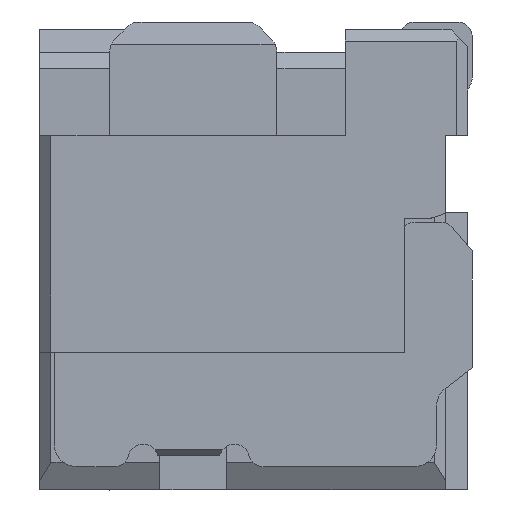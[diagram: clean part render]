
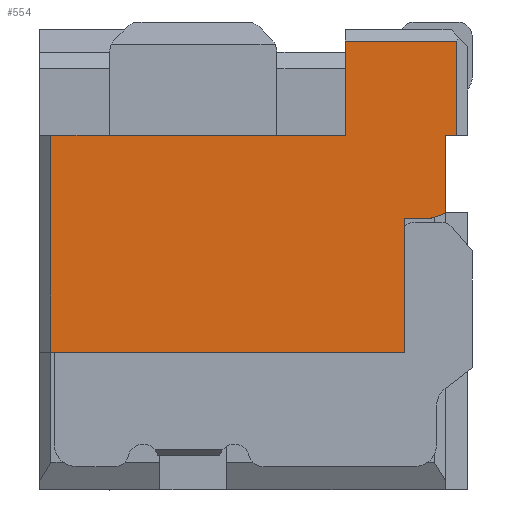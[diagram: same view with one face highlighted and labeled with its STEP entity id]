
A CAD part, front view. The second image highlights one B-rep face of the part: STEP entity #554.
In plain terms, the highlighted planar face has unit normal (0, -1, 0).
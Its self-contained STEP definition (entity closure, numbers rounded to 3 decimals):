
#554=ADVANCED_FACE('',(#1374),#981,.T.);
#981=PLANE('',#9589);
#1374=FACE_OUTER_BOUND('',#1828,.T.);
#1828=EDGE_LOOP('',(#3098,#3099,#3100,#3101,#3102,#3103,#3104,#3105,#3106,
#3107,#3108));
#3098=ORIENTED_EDGE('',*,*,#6314,.T.);
#3099=ORIENTED_EDGE('',*,*,#6339,.F.);
#3100=ORIENTED_EDGE('',*,*,#6340,.T.);
#3101=ORIENTED_EDGE('',*,*,#6341,.T.);
#3102=ORIENTED_EDGE('',*,*,#6342,.F.);
#3103=ORIENTED_EDGE('',*,*,#6343,.F.);
#3104=ORIENTED_EDGE('',*,*,#6344,.F.);
#3105=ORIENTED_EDGE('',*,*,#6345,.T.);
#3106=ORIENTED_EDGE('',*,*,#6346,.T.);
#3107=ORIENTED_EDGE('',*,*,#6337,.T.);
#3108=ORIENTED_EDGE('',*,*,#6256,.F.);
#5260=VERTEX_POINT('',#13549);
#5261=VERTEX_POINT('',#13551);
#5296=VERTEX_POINT('',#13657);
#5309=VERTEX_POINT('',#13702);
#5310=VERTEX_POINT('',#13706);
#5311=VERTEX_POINT('',#13708);
#5312=VERTEX_POINT('',#13710);
#5313=VERTEX_POINT('',#13712);
#5314=VERTEX_POINT('',#13714);
#5315=VERTEX_POINT('',#13716);
#5316=VERTEX_POINT('',#13718);
#6256=EDGE_CURVE('',#5260,#5261,#7499,.T.);
#6314=EDGE_CURVE('',#5260,#5296,#7556,.T.);
#6337=EDGE_CURVE('',#5309,#5261,#7579,.T.);
#6339=EDGE_CURVE('',#5310,#5296,#7581,.T.);
#6340=EDGE_CURVE('',#5310,#5311,#7582,.T.);
#6341=EDGE_CURVE('',#5311,#5312,#7583,.T.);
#6342=EDGE_CURVE('',#5313,#5312,#7584,.T.);
#6343=EDGE_CURVE('',#5314,#5313,#7585,.T.);
#6344=EDGE_CURVE('',#5315,#5314,#7586,.T.);
#6345=EDGE_CURVE('',#5315,#5316,#7587,.T.);
#6346=EDGE_CURVE('',#5316,#5309,#7588,.T.);
#7499=LINE('',#13550,#8639);
#7556=LINE('',#13658,#8696);
#7579=LINE('',#13701,#8719);
#7581=LINE('',#13705,#8721);
#7582=LINE('',#13707,#8722);
#7583=LINE('',#13709,#8723);
#7584=LINE('',#13711,#8724);
#7585=LINE('',#13713,#8725);
#7586=LINE('',#13715,#8726);
#7587=LINE('',#13717,#8727);
#7588=LINE('',#13719,#8728);
#8639=VECTOR('',#10867,1.);
#8696=VECTOR('',#10954,1.);
#8719=VECTOR('',#10993,1.);
#8721=VECTOR('',#10997,1.);
#8722=VECTOR('',#10998,1.);
#8723=VECTOR('',#10999,1.);
#8724=VECTOR('',#11000,1.);
#8725=VECTOR('',#11001,1.);
#8726=VECTOR('',#11002,1.);
#8727=VECTOR('',#11003,1.);
#8728=VECTOR('',#11004,1.);
#9589=AXIS2_PLACEMENT_3D('',#13720,#11005,#11006);
#10867=DIRECTION('',(-1.,0.,0.));
#10954=DIRECTION('',(0.,0.,1.));
#10993=DIRECTION('',(0.,0.,-1.));
#10997=DIRECTION('',(-1.,0.,0.));
#10998=DIRECTION('',(0.949,0.,0.316));
#10999=DIRECTION('',(0.,0.,1.));
#11000=DIRECTION('',(-1.,0.,0.));
#11001=DIRECTION('',(0.,0.,-1.));
#11002=DIRECTION('',(1.,0.,0.));
#11003=DIRECTION('',(0.,0.,-1.));
#11004=DIRECTION('',(-1.,0.,0.));
#11005=DIRECTION('',(0.,-1.,0.));
#11006=DIRECTION('',(0.,0.,-1.));
#13549=CARTESIAN_POINT('',(-35.958,114.743,-1.95));
#13550=CARTESIAN_POINT('',(-35.958,114.743,-1.95));
#13551=CARTESIAN_POINT('',(-39.138,114.743,-1.95));
#13657=CARTESIAN_POINT('',(-35.958,114.743,-0.75));
#13658=CARTESIAN_POINT('',(-35.958,114.743,-1.95));
#13701=CARTESIAN_POINT('',(-39.138,114.743,0.));
#13702=CARTESIAN_POINT('',(-39.138,114.743,0.));
#13705=CARTESIAN_POINT('',(-35.738,114.743,-0.75));
#13706=CARTESIAN_POINT('',(-35.738,114.743,-0.75));
#13707=CARTESIAN_POINT('',(-35.738,114.743,-0.75));
#13708=CARTESIAN_POINT('',(-35.588,114.743,-0.7));
#13709=CARTESIAN_POINT('',(-35.588,114.743,-0.7));
#13710=CARTESIAN_POINT('',(-35.588,114.743,0.));
#13711=CARTESIAN_POINT('',(-35.488,114.743,0.));
#13712=CARTESIAN_POINT('',(-35.488,114.743,0.));
#13713=CARTESIAN_POINT('',(-35.488,114.743,0.85));
#13714=CARTESIAN_POINT('',(-35.488,114.743,0.85));
#13715=CARTESIAN_POINT('',(-36.488,114.743,0.85));
#13716=CARTESIAN_POINT('',(-36.488,114.743,0.85));
#13717=CARTESIAN_POINT('',(-36.488,114.743,0.85));
#13718=CARTESIAN_POINT('',(-36.488,114.743,0.));
#13719=CARTESIAN_POINT('',(-36.488,114.743,0.));
#13720=CARTESIAN_POINT('',(-37.823,114.743,-0.975));
